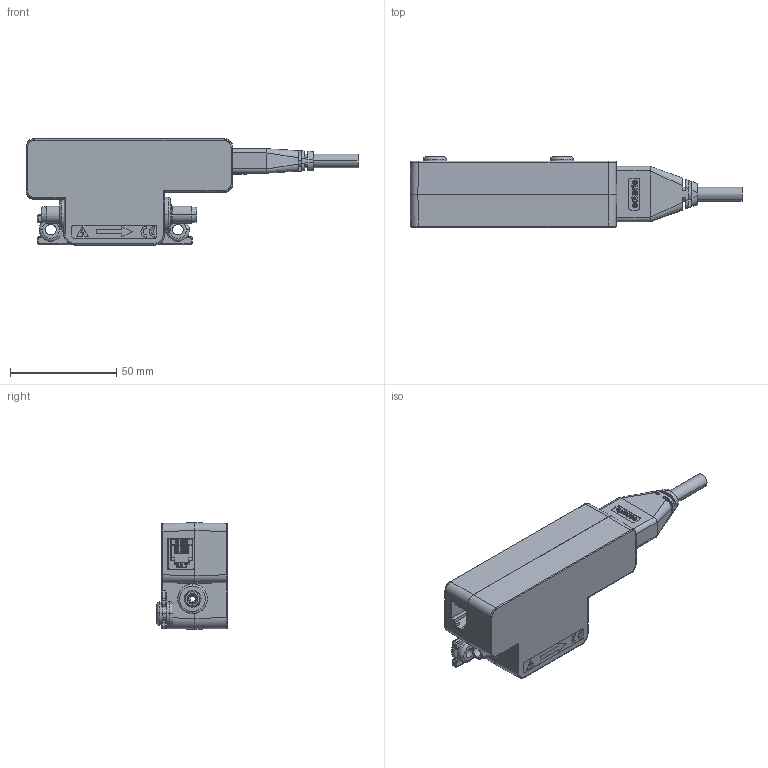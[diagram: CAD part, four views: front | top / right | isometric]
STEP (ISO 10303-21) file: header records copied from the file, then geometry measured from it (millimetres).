
FILE_DESCRIPTION(('Creo Elements/Direct Modeling STEP Export'),'2;1');
FILE_NAME('EE600+_EE1000+_EE1800+_EE2000+.stp','2024-10-17T10:33:35',(''),(''),'Creo Elements/Direct Modeling STEP processor for AP214 (Solid Model)','Creo Elements/Direct Modeling 20.3B 05-Dec-2020 (C) Parametric Technology GmbH','');
FILE_SCHEMA(('AUTOMOTIVE_DESIGN { 1 0 10303 214 1 1 1 1 }'));
Length unit declared in the file: millimetre
Products named in the file (54): Oberteil; Unterteil; T1; T2; T3; T4; T5; T6; T7; T8; B1; 1726480105; con.stp.1; 615006138421_PIN.PRT; 615006138421_PIN_LONGUE.PRT; 6150XX138421.PRT; ASSEM1.ASM; RJ12; PCB; Elektronik.1; DK8_PRT.PRT; 105323-654220_PRT.PRT; 105323-655080_ASM.ASM; 106104-672130_PRT.PRT; 106104-673010_ASM.ASM; SKIN_GROUP1_PRT.PRT; SKIN_GROUP2_PRT.PRT; SKIN_GROUP3_PRT.PRT; SKIN_GROUP4_PRT.PRT; SKIN_GROUP5_PRT.PRT; SKIN_GROUP6_PRT.PRT; SKIN_GROUP7_PRT.PRT; SKIN_GROUP8_PRT.PRT; SKIN_GROUP9_PRT.PRT; SKIN_GROUP10_PRT.PRT; SKIN_GROUP11_PRT.PRT; SKIN_GROUP12_PRT.PRT; SKIN_GROUP13_PRT.PRT; SKIN_GROUP14_PRT.PRT; BOBINE_G08_-_SURMOULAGE_-852500.ASM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
Assembly tree (57 placements, depth 6):
  EE600+_EE1000+_EE1800+_EE2000+
    Connector
      2153201051.stp.1
        T7
      Overmold.1
      Cable_6_5mm
    Zubehör.1
      DA50_70_20.1
      DA50_70_20
    EMS_10_ASM.ASM.1.1
      DK9_10_12_16
      EMS10_ASM.ASM
        BOBINE_G08_-_SURMOULAGE_-853300.ASM
          BOBINE_G08_-_SURMOULAGE_-852500.ASM
            SKIN_GROUP14_PRT.PRT
            SKIN_GROUP13_PRT.PRT
            SKIN_GROUP12_PRT.PRT
            SKIN_GROUP11_PRT.PRT
            SKIN_GROUP10_PRT.PRT
            SKIN_GROUP9_PRT.PRT
            SKIN_GROUP8_PRT.PRT
            SKIN_GROUP7_PRT.PRT
            SKIN_GROUP6_PRT.PRT
            SKIN_GROUP5_PRT.PRT
            SKIN_GROUP4_PRT.PRT
            SKIN_GROUP3_PRT.PRT
            SKIN_GROUP2_PRT.PRT
            SKIN_GROUP1_PRT.PRT
        106104-673010_ASM.ASM
          106104-672130_PRT.PRT
        105323-655080_ASM.ASM
          105323-654220_PRT.PRT
      DK8_PRT.PRT
    Elektronik.1
      PCB
      RJ12
        ASSEM1.ASM
          6150XX138421.PRT
          615006138421_PIN_LONGUE.PRT  x3
          615006138421_PIN.PRT  x3
      con.stp.1
        1726480105
          T1
          B1
            T8
            T7
            T6
            T5
            T4
            T3
            T2
            T1
    Unterteil
    Oberteil
Bounding box: 155.94 x 33.1 x 49.93 mm (x, y, z)
Volume: 54644.1 mm3; surface area: 64944.3 mm2
Topology: 34 solids, 34 shells, 1928 faces, 5017 edges, 3224 vertices
Faces by surface type: plane 1263, cylinder 352, extrusion 131, torus 74, bspline 54, cone 52, sphere 2
Entity records: 75774 total; most frequent: CARTESIAN_POINT 24059, ORIENTED_EDGE 9822, DIRECTION 8535, EDGE_CURVE 4911, VECTOR 3753, LINE 3622, VERTEX_POINT 3144, AXIS2_PLACEMENT_3D 2391
